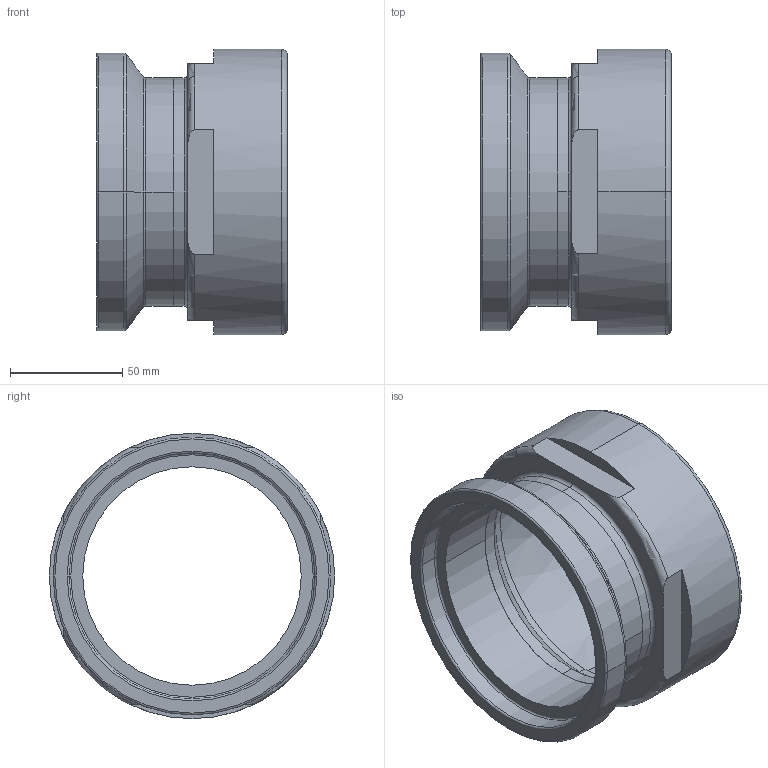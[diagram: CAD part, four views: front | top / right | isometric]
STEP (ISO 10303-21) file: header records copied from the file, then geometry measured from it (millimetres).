
FILE_DESCRIPTION (( 'STEP AP203' ), '1' );
FILE_NAME ('E22I-15I 4.0.STEP', '2021-10-26T19:28:30', ( '' ), ( '' ), 'SwSTEP 2.0', 'SolidWorks 2021', '' );
FILE_SCHEMA (( 'CONFIG_CONTROL_DESIGN' ));
Length unit declared in the file: inch
Products named in the file (3): 22WBF4.0; E22I-15I 4.0; E15WI4.0
Assembly tree (2 placements, depth 2):
  E22I-15I 4.0
    E15WI4.0
    22WBF4.0
Bounding box: 84.94 x 127 x 127 mm (x, y, z)
Volume: 200198.6 mm3; surface area: 74388.3 mm2
Topology: 2 solids, 2 shells, 55 faces, 122 edges, 74 vertices
Faces by surface type: torus 18, cylinder 16, plane 15, cone 6
Entity records: 1991 total; most frequent: CARTESIAN_POINT 408, DIRECTION 310, ORIENTED_EDGE 244, AXIS2_PLACEMENT_3D 136, EDGE_CURVE 122, CIRCLE 76, VERTEX_POINT 74, EDGE_LOOP 62
